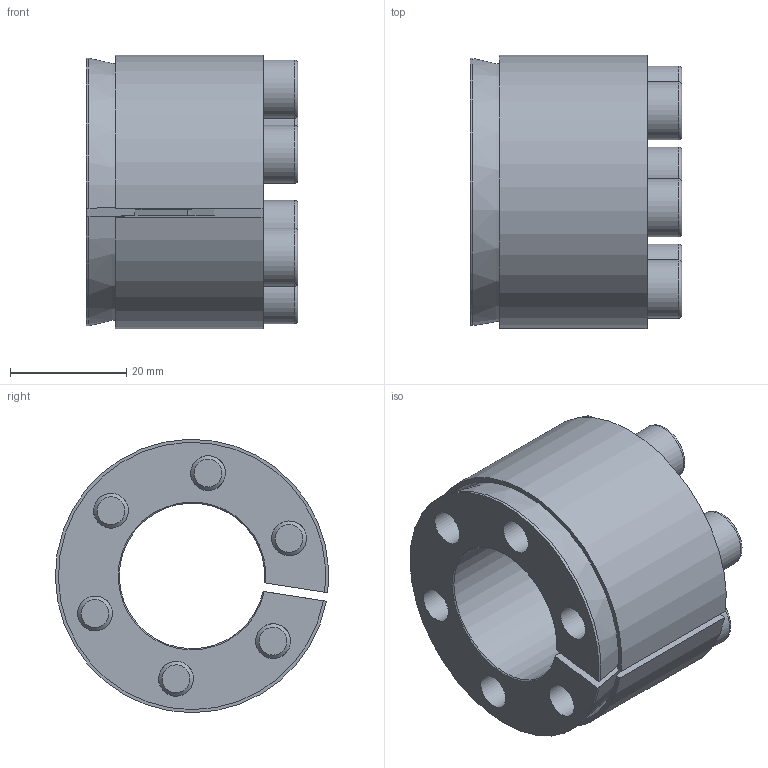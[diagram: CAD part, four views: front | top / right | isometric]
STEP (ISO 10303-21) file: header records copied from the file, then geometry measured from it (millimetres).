
FILE_DESCRIPTION((''),'2;1');
FILE_NAME('M:\Disegni 3D\CALETTATORI\RCK 61\25x47 - 06610025\Assieme chiuso.stp','2015-12-16T15:29:59',('fabietto'),(''),'Autodesk Inventor 2013','Autodesk Inventor 2013','');
FILE_SCHEMA(('AUTOMOTIVE_DESIGN { 1 0 10303 214 1 1 1 1 }'));
Length unit declared in the file: millimetre
Products named in the file (4): Assieme chiuso; Anello esterno; Anello interno; DIN 912 - sostituito da DIN EN ISO 4762 M6 x 25
Assembly tree (8 placements, depth 2):
  Assieme chiuso
    Anello esterno
    Anello interno
    DIN 912 - sostituito da DIN EN ISO 4762 M6 x 25  x6
Bounding box: 36.41 x 46.97 x 46.99 mm (x, y, z)
Volume: 27804.5 mm3; surface area: 22586.4 mm2
Topology: 8 solids, 8 shells, 127 faces, 291 edges, 186 vertices
Faces by surface type: plane 64, cylinder 33, cone 18, torus 12
Full cylindrical faces by diameter (mm): 6 x15, 6.5 x6, 10 x6
Entity records: 1676 total; most frequent: CARTESIAN_POINT 286, DIRECTION 278, ORIENTED_EDGE 218, AXIS2_PLACEMENT_3D 119, EDGE_CURVE 109, EDGE_LOOP 104, VERTEX_POINT 85, CIRCLE 55
